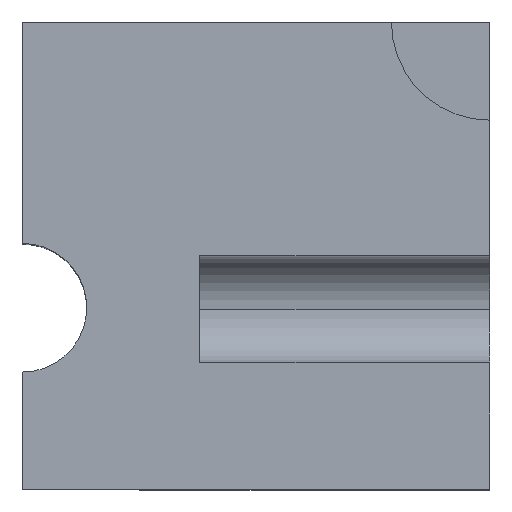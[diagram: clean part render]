
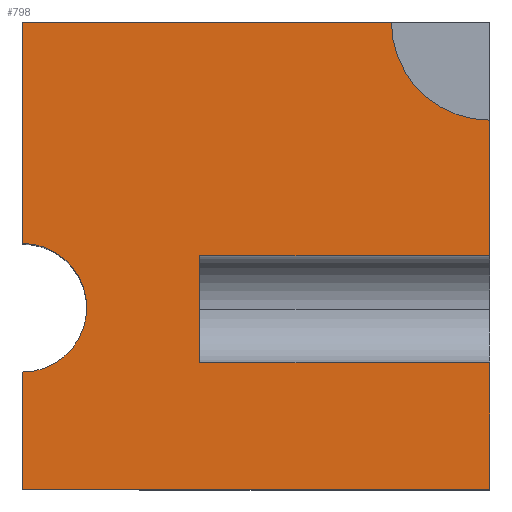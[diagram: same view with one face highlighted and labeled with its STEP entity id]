
A CAD part, top view. The second image highlights one B-rep face of the part: STEP entity #798.
In plain terms, the highlighted planar face has unit normal (0, 0, 1).
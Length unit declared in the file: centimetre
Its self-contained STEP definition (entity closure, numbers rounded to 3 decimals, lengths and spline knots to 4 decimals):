
#4 = CARTESIAN_POINT ( 'NONE',  ( 0., 526.115, 1000. ) ) ;
#23 = FACE_OUTER_BOUND ( 'NONE', #1026, .T. ) ;
#27 = CARTESIAN_POINT ( 'NONE',  ( 0., 1000., 1000. ) ) ;
#35 = VERTEX_POINT ( 'NONE', #421 ) ;
#38 = AXIS2_PLACEMENT_3D ( 'NONE', #963, #676, #193 ) ;
#65 = ORIENTED_EDGE ( 'NONE', *, *, #1267, .T. ) ;
#80 = DIRECTION ( 'NONE',  ( 0., 1., 0. ) ) ;
#97 = CARTESIAN_POINT ( 'NONE',  ( 1000., 1000., 1000. ) ) ;
#106 = VECTOR ( 'NONE', #1116, 100. ) ;
#150 = ORIENTED_EDGE ( 'NONE', *, *, #1346, .T. ) ;
#153 = VECTOR ( 'NONE', #80, 100. ) ;
#162 = CARTESIAN_POINT ( 'NONE',  ( 1000., 270.3624, 1000. ) ) ;
#175 = CARTESIAN_POINT ( 'NONE',  ( 789.8744, 1000., 1000. ) ) ;
#179 = AXIS2_PLACEMENT_3D ( 'NONE', #211, #578, #1030 ) ;
#193 = DIRECTION ( 'NONE',  ( 1., 0., 0. ) ) ;
#198 = AXIS2_PLACEMENT_3D ( 'NONE', #266, #1468, #1010 ) ;
#211 = CARTESIAN_POINT ( 'NONE',  ( 1000., 1000., 1000. ) ) ;
#222 = VECTOR ( 'NONE', #546, 100. ) ;
#252 = EDGE_CURVE ( 'NONE', #1194, #1295, #377, .T. ) ;
#266 = CARTESIAN_POINT ( 'NONE',  ( 0., 388.3971, 1000. ) ) ;
#274 = EDGE_CURVE ( 'NONE', #837, #461, #1426, .T. ) ;
#280 = VECTOR ( 'NONE', #1286, 100. ) ;
#285 = ORIENTED_EDGE ( 'NONE', *, *, #1445, .F. ) ;
#303 = ORIENTED_EDGE ( 'NONE', *, *, #1224, .T. ) ;
#329 = DIRECTION ( 'NONE',  ( 0., 1., 0. ) ) ;
#349 = LINE ( 'NONE', #824, #280 ) ;
#350 = ORIENTED_EDGE ( 'NONE', *, *, #274, .F. ) ;
#370 = EDGE_CURVE ( 'NONE', #387, #483, #665, .T. ) ;
#375 = VERTEX_POINT ( 'NONE', #1151 ) ;
#377 = LINE ( 'NONE', #852, #1298 ) ;
#387 = VERTEX_POINT ( 'NONE', #696 ) ;
#416 = CARTESIAN_POINT ( 'NONE',  ( 0., 0., 1000. ) ) ;
#419 = CARTESIAN_POINT ( 'NONE',  ( 379.5057, 270.3624, 1000. ) ) ;
#421 = CARTESIAN_POINT ( 'NONE',  ( 379.5057, 270.3624, 1000. ) ) ;
#433 = LINE ( 'NONE', #416, #106 ) ;
#441 = DIRECTION ( 'NONE',  ( 0., -1., 0. ) ) ;
#453 = CARTESIAN_POINT ( 'NONE',  ( 0., 250.6791, 1000. ) ) ;
#461 = VERTEX_POINT ( 'NONE', #584 ) ;
#483 = VERTEX_POINT ( 'NONE', #4 ) ;
#507 = LINE ( 'NONE', #1209, #563 ) ;
#517 = ORIENTED_EDGE ( 'NONE', *, *, #370, .T. ) ;
#545 = EDGE_CURVE ( 'NONE', #375, #35, #349, .T. ) ;
#546 = DIRECTION ( 'NONE',  ( 1., 0., 0. ) ) ;
#563 = VECTOR ( 'NONE', #729, 100. ) ;
#578 = DIRECTION ( 'NONE',  ( 0., 0., 1. ) ) ;
#581 = PLANE ( 'NONE',  #38 ) ;
#584 = CARTESIAN_POINT ( 'NONE',  ( 1000., 789.8744, 1000. ) ) ;
#598 = DIRECTION ( 'NONE',  ( -1., 0., 0. ) ) ;
#630 = VERTEX_POINT ( 'NONE', #162 ) ;
#665 = LINE ( 'NONE', #1049, #1254 ) ;
#676 = DIRECTION ( 'NONE',  ( 0., 0., 1. ) ) ;
#696 = CARTESIAN_POINT ( 'NONE',  ( 0., 1000., 1000. ) ) ;
#717 = ORIENTED_EDGE ( 'NONE', *, *, #905, .T. ) ;
#729 = DIRECTION ( 'NONE',  ( 1., 0., 0. ) ) ;
#774 = LINE ( 'NONE', #1127, #153 ) ;
#798 = ADVANCED_FACE ( 'NONE', ( #23 ), #581, .T. ) ;
#824 = CARTESIAN_POINT ( 'NONE',  ( 379.5057, 0., 1000. ) ) ;
#832 = CIRCLE ( 'NONE', #198, 137.7179 ) ;
#837 = VERTEX_POINT ( 'NONE', #175 ) ;
#852 = CARTESIAN_POINT ( 'NONE',  ( 0., 1000., 1000. ) ) ;
#905 = EDGE_CURVE ( 'NONE', #1295, #1259, #433, .T. ) ;
#963 = CARTESIAN_POINT ( 'NONE',  ( 0., 0., 1000. ) ) ;
#965 = ORIENTED_EDGE ( 'NONE', *, *, #1500, .T. ) ;
#1010 = DIRECTION ( 'NONE',  ( -1., 0., 0. ) ) ;
#1026 = EDGE_LOOP ( 'NONE', ( #285, #1179, #1226, #303, #350, #65, #517, #150, #1345, #717, #965 ) ) ;
#1030 = DIRECTION ( 'NONE',  ( 1., 0., 0. ) ) ;
#1031 = CARTESIAN_POINT ( 'NONE',  ( 1000., 500., 1000. ) ) ;
#1049 = CARTESIAN_POINT ( 'NONE',  ( 0., 1000., 1000. ) ) ;
#1116 = DIRECTION ( 'NONE',  ( 1., 0., 0. ) ) ;
#1127 = CARTESIAN_POINT ( 'NONE',  ( 1000., 1000., 1000. ) ) ;
#1151 = CARTESIAN_POINT ( 'NONE',  ( 379.5057, 500., 1000. ) ) ;
#1167 = CARTESIAN_POINT ( 'NONE',  ( 0., 0., 1000. ) ) ;
#1178 = VECTOR ( 'NONE', #329, 100. ) ;
#1179 = ORIENTED_EDGE ( 'NONE', *, *, #545, .F. ) ;
#1194 = VERTEX_POINT ( 'NONE', #453 ) ;
#1209 = CARTESIAN_POINT ( 'NONE',  ( 379.5057, 500., 1000. ) ) ;
#1224 = EDGE_CURVE ( 'NONE', #1497, #461, #1509, .T. ) ;
#1226 = ORIENTED_EDGE ( 'NONE', *, *, #1514, .T. ) ;
#1238 = LINE ( 'NONE', #419, #222 ) ;
#1254 = VECTOR ( 'NONE', #441, 100. ) ;
#1259 = VERTEX_POINT ( 'NONE', #1291 ) ;
#1267 = EDGE_CURVE ( 'NONE', #837, #387, #1438, .T. ) ;
#1286 = DIRECTION ( 'NONE',  ( 0., -1., 0. ) ) ;
#1291 = CARTESIAN_POINT ( 'NONE',  ( 1000., 0., 1000. ) ) ;
#1295 = VERTEX_POINT ( 'NONE', #1167 ) ;
#1298 = VECTOR ( 'NONE', #1313, 100. ) ;
#1313 = DIRECTION ( 'NONE',  ( 0., -1., 0. ) ) ;
#1345 = ORIENTED_EDGE ( 'NONE', *, *, #252, .T. ) ;
#1346 = EDGE_CURVE ( 'NONE', #483, #1194, #832, .T. ) ;
#1426 = CIRCLE ( 'NONE', #179, 210.1256 ) ;
#1438 = LINE ( 'NONE', #27, #1496 ) ;
#1445 = EDGE_CURVE ( 'NONE', #35, #630, #1238, .T. ) ;
#1468 = DIRECTION ( 'NONE',  ( 0., 0., -1. ) ) ;
#1496 = VECTOR ( 'NONE', #598, 100. ) ;
#1497 = VERTEX_POINT ( 'NONE', #1031 ) ;
#1500 = EDGE_CURVE ( 'NONE', #1259, #630, #774, .T. ) ;
#1509 = LINE ( 'NONE', #97, #1178 ) ;
#1514 = EDGE_CURVE ( 'NONE', #375, #1497, #507, .T. ) ;
